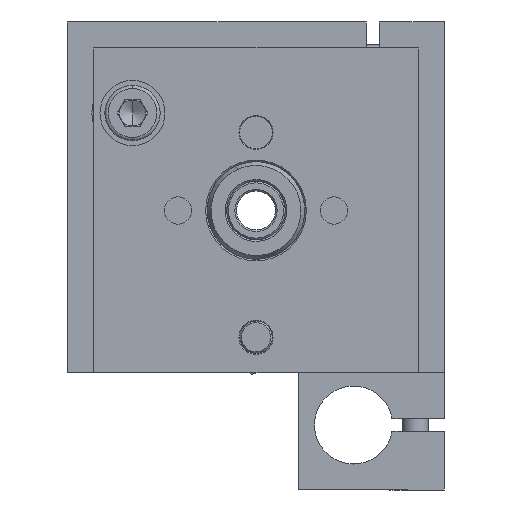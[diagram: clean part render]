
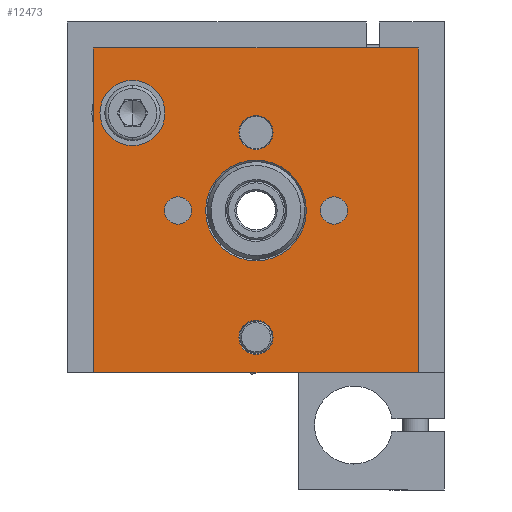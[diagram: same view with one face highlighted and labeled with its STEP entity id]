
A CAD part, front view. The second image highlights one B-rep face of the part: STEP entity #12473.
In plain terms, the highlighted planar face has unit normal (0, -1, 0) as drawn and (0, 1, 0) by its records, which use the part's own axes.
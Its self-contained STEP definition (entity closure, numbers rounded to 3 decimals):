
#8784 = CARTESIAN_POINT ( 'NONE',  ( 25., 12., -41.875 ) ) ;
#8832 = DIRECTION ( 'NONE',  ( 0., 0., 1. ) ) ;
#8833 = DIRECTION ( 'NONE',  ( 0., 1., 0. ) ) ;
#8834 = AXIS2_PLACEMENT_3D ( 'NONE', #8841, #8833, #8832 ) ;
#8835 = CIRCLE ( 'NONE', #8834, 2.625 ) ;
#8841 = CARTESIAN_POINT ( 'NONE',  ( 25., 12., -13. ) ) ;
#8856 = CARTESIAN_POINT ( 'NONE',  ( 25., 12., -15.625 ) ) ;
#8857 = CARTESIAN_POINT ( 'NONE',  ( 25., 12., -10.375 ) ) ;
#8879 = CARTESIAN_POINT ( 'NONE',  ( 25., 12., -17.25 ) ) ;
#8880 = CARTESIAN_POINT ( 'NONE',  ( 25., 12., -32.75 ) ) ;
#8885 = DIRECTION ( 'NONE',  ( 0., 0., 1. ) ) ;
#8886 = DIRECTION ( 'NONE',  ( 0., 1., 0. ) ) ;
#8887 = CARTESIAN_POINT ( 'NONE',  ( 25., 12., -25. ) ) ;
#8888 = AXIS2_PLACEMENT_3D ( 'NONE', #8887, #8886, #8885 ) ;
#8889 = CIRCLE ( 'NONE', #8888, 7.75 ) ;
#8896 = CARTESIAN_POINT ( 'NONE',  ( 13., 12., -27.1 ) ) ;
#8901 = DIRECTION ( 'NONE',  ( 0., 0., 1. ) ) ;
#8902 = DIRECTION ( 'NONE',  ( 0., 1., 0. ) ) ;
#8903 = CARTESIAN_POINT ( 'NONE',  ( 37., 12., -25. ) ) ;
#8904 = AXIS2_PLACEMENT_3D ( 'NONE', #8903, #8902, #8901 ) ;
#8905 = CIRCLE ( 'NONE', #8904, 2.1 ) ;
#8906 = CARTESIAN_POINT ( 'NONE',  ( 37., 12., -27.1 ) ) ;
#8907 = CARTESIAN_POINT ( 'NONE',  ( 37., 12., -22.9 ) ) ;
#8936 = DIRECTION ( 'NONE',  ( 0., 0., 1. ) ) ;
#8937 = DIRECTION ( 'NONE',  ( 0., 1., 0. ) ) ;
#8938 = CARTESIAN_POINT ( 'NONE',  ( 13., 12., -25. ) ) ;
#8939 = AXIS2_PLACEMENT_3D ( 'NONE', #8938, #8937, #8936 ) ;
#8940 = CIRCLE ( 'NONE', #8939, 2.1 ) ;
#9000 = CARTESIAN_POINT ( 'NONE',  ( 13., 12., -22.9 ) ) ;
#9031 = DIRECTION ( 'NONE',  ( 0., 0., 1. ) ) ;
#9032 = DIRECTION ( 'NONE',  ( 0., 1., 0. ) ) ;
#9033 = CARTESIAN_POINT ( 'NONE',  ( 13., 12., -25. ) ) ;
#9034 = AXIS2_PLACEMENT_3D ( 'NONE', #9033, #9032, #9031 ) ;
#9039 = CIRCLE ( 'NONE', #9034, 2.1 ) ;
#9049 = DIRECTION ( 'NONE',  ( 0., 0., 1. ) ) ;
#9050 = DIRECTION ( 'NONE',  ( 0., 1., 0. ) ) ;
#9051 = CARTESIAN_POINT ( 'NONE',  ( 37., 12., -25. ) ) ;
#9052 = AXIS2_PLACEMENT_3D ( 'NONE', #9051, #9050, #9049 ) ;
#9053 = CIRCLE ( 'NONE', #9052, 2.1 ) ;
#9113 = CARTESIAN_POINT ( 'NONE',  ( 0., 12., -50. ) ) ;
#9118 = CARTESIAN_POINT ( 'NONE',  ( 0., 12., 0. ) ) ;
#9119 = CARTESIAN_POINT ( 'NONE',  ( 50., 12., 0. ) ) ;
#9155 = DIRECTION ( 'NONE',  ( 0., 0., -1. ) ) ;
#9156 = VECTOR ( 'NONE', #9155, 1000. ) ;
#9157 = CARTESIAN_POINT ( 'NONE',  ( 50., 12., 0. ) ) ;
#9158 = LINE ( 'NONE', #9157, #9156 ) ;
#9159 = CARTESIAN_POINT ( 'NONE',  ( 50., 12., -50. ) ) ;
#9164 = DIRECTION ( 'NONE',  ( 0., 0., 1. ) ) ;
#9165 = VECTOR ( 'NONE', #9164, 1000. ) ;
#9166 = CARTESIAN_POINT ( 'NONE',  ( 0., 12., 0. ) ) ;
#9167 = LINE ( 'NONE', #9166, #9165 ) ;
#9249 = DIRECTION ( 'NONE',  ( 0., 0., 1. ) ) ;
#9250 = DIRECTION ( 'NONE',  ( 0., 1., 0. ) ) ;
#9251 = AXIS2_PLACEMENT_3D ( 'NONE', #9257, #9250, #9249 ) ;
#9252 = CIRCLE ( 'NONE', #9251, 2.625 ) ;
#9257 = CARTESIAN_POINT ( 'NONE',  ( 25., 12., -13. ) ) ;
#9271 = DIRECTION ( 'NONE',  ( 0., 0., 1. ) ) ;
#9272 = DIRECTION ( 'NONE',  ( 0., 1., 0. ) ) ;
#9273 = AXIS2_PLACEMENT_3D ( 'NONE', #9279, #9272, #9271 ) ;
#9274 = CIRCLE ( 'NONE', #9273, 2.625 ) ;
#9279 = CARTESIAN_POINT ( 'NONE',  ( 25., 12., -44.5 ) ) ;
#9305 = DIRECTION ( 'NONE',  ( 0., 0., 1. ) ) ;
#9306 = DIRECTION ( 'NONE',  ( 0., 1., 0. ) ) ;
#9307 = AXIS2_PLACEMENT_3D ( 'NONE', #9312, #9306, #9305 ) ;
#9312 = CARTESIAN_POINT ( 'NONE',  ( 25., 12., -25. ) ) ;
#9314 = CIRCLE ( 'NONE', #9307, 7.75 ) ;
#9484 = FACE_OUTER_BOUND ( 'NONE', #12321, .T. ) ;
#9485 = FACE_BOUND ( 'NONE', #12338, .T. ) ;
#9486 = FACE_BOUND ( 'NONE', #12298, .T. ) ;
#9487 = FACE_BOUND ( 'NONE', #12303, .T. ) ;
#9488 = FACE_BOUND ( 'NONE', #12300, .T. ) ;
#9489 = FACE_BOUND ( 'NONE', #12550, .T. ) ;
#9490 = FACE_BOUND ( 'NONE', #12480, .T. ) ;
#9491 = DIRECTION ( 'NONE',  ( 1., 0., 0. ) ) ;
#9492 = VECTOR ( 'NONE', #9491, 1000. ) ;
#9493 = CARTESIAN_POINT ( 'NONE',  ( 0., 12., 0. ) ) ;
#9494 = LINE ( 'NONE', #9493, #9492 ) ;
#9495 = PLANE ( 'NONE',  #9548 ) ;
#9523 = CIRCLE ( 'NONE', #9582, 5. ) ;
#9545 = DIRECTION ( 'NONE',  ( 0., 0., -1. ) ) ;
#9546 = DIRECTION ( 'NONE',  ( 0., -1., 0. ) ) ;
#9547 = CARTESIAN_POINT ( 'NONE',  ( 0., 12., -50. ) ) ;
#9548 = AXIS2_PLACEMENT_3D ( 'NONE', #9547, #9546, #9545 ) ;
#9571 = DIRECTION ( 'NONE',  ( -1., 0., 0. ) ) ;
#9572 = VECTOR ( 'NONE', #9571, 1000. ) ;
#9573 = CARTESIAN_POINT ( 'NONE',  ( 0., 12., -50. ) ) ;
#9574 = LINE ( 'NONE', #9573, #9572 ) ;
#9579 = DIRECTION ( 'NONE',  ( 0., 0., 1. ) ) ;
#9580 = DIRECTION ( 'NONE',  ( 0., 1., 0. ) ) ;
#9581 = CARTESIAN_POINT ( 'NONE',  ( 44., 12., -10. ) ) ;
#9582 = AXIS2_PLACEMENT_3D ( 'NONE', #9581, #9580, #9579 ) ;
#9813 = CARTESIAN_POINT ( 'NONE',  ( 44., 12., -5. ) ) ;
#9840 = DIRECTION ( 'NONE',  ( 0., 0., 1. ) ) ;
#9841 = DIRECTION ( 'NONE',  ( 0., 1., 0. ) ) ;
#9842 = CARTESIAN_POINT ( 'NONE',  ( 44., 12., -10. ) ) ;
#9843 = AXIS2_PLACEMENT_3D ( 'NONE', #9842, #9841, #9840 ) ;
#9844 = CIRCLE ( 'NONE', #9843, 5. ) ;
#9849 = CARTESIAN_POINT ( 'NONE',  ( 44., 12., -15. ) ) ;
#9924 = CARTESIAN_POINT ( 'NONE',  ( 25., 12., -47.125 ) ) ;
#9976 = DIRECTION ( 'NONE',  ( 0., 0., 1. ) ) ;
#9977 = DIRECTION ( 'NONE',  ( 0., 1., 0. ) ) ;
#9978 = CARTESIAN_POINT ( 'NONE',  ( 25., 12., -44.5 ) ) ;
#9979 = AXIS2_PLACEMENT_3D ( 'NONE', #9978, #9977, #9976 ) ;
#9980 = CIRCLE ( 'NONE', #9979, 2.625 ) ;
#12074 = VERTEX_POINT ( 'NONE', #8784 ) ;
#12098 = VERTEX_POINT ( 'NONE', #8857 ) ;
#12100 = VERTEX_POINT ( 'NONE', #8856 ) ;
#12112 = EDGE_CURVE ( 'NONE', #12100, #12098, #8835, .T. ) ;
#12118 = EDGE_CURVE ( 'NONE', #12120, #12122, #8889, .T. ) ;
#12120 = VERTEX_POINT ( 'NONE', #8880 ) ;
#12122 = VERTEX_POINT ( 'NONE', #8879 ) ;
#12142 = VERTEX_POINT ( 'NONE', #8907 ) ;
#12143 = VERTEX_POINT ( 'NONE', #8906 ) ;
#12146 = EDGE_CURVE ( 'NONE', #12143, #12142, #8905, .T. ) ;
#12149 = VERTEX_POINT ( 'NONE', #8896 ) ;
#12157 = EDGE_CURVE ( 'NONE', #12149, #12166, #8940, .T. ) ;
#12166 = VERTEX_POINT ( 'NONE', #9000 ) ;
#12175 = EDGE_CURVE ( 'NONE', #12166, #12149, #9039, .T. ) ;
#12193 = EDGE_CURVE ( 'NONE', #12142, #12143, #9053, .T. ) ;
#12227 = VERTEX_POINT ( 'NONE', #9119 ) ;
#12231 = VERTEX_POINT ( 'NONE', #9118 ) ;
#12234 = VERTEX_POINT ( 'NONE', #9113 ) ;
#12238 = EDGE_CURVE ( 'NONE', #12234, #12231, #9167, .T. ) ;
#12243 = VERTEX_POINT ( 'NONE', #9159 ) ;
#12246 = EDGE_CURVE ( 'NONE', #12227, #12243, #9158, .T. ) ;
#12294 = ORIENTED_EDGE ( 'NONE', *, *, #12295, .F. ) ;
#12295 = EDGE_CURVE ( 'NONE', #12098, #12100, #9252, .T. ) ;
#12298 = EDGE_LOOP ( 'NONE', ( #12294, #12341 ) ) ;
#12300 = EDGE_LOOP ( 'NONE', ( #12308, #12309 ) ) ;
#12301 = ORIENTED_EDGE ( 'NONE', *, *, #12146, .F. ) ;
#12302 = ORIENTED_EDGE ( 'NONE', *, *, #12668, .F. ) ;
#12303 = EDGE_LOOP ( 'NONE', ( #12312, #12302 ) ) ;
#12304 = ORIENTED_EDGE ( 'NONE', *, *, #12193, .F. ) ;
#12308 = ORIENTED_EDGE ( 'NONE', *, *, #12175, .F. ) ;
#12309 = ORIENTED_EDGE ( 'NONE', *, *, #12157, .F. ) ;
#12311 = EDGE_CURVE ( 'NONE', #12074, #12665, #9274, .T. ) ;
#12312 = ORIENTED_EDGE ( 'NONE', *, *, #12311, .F. ) ;
#12315 = ORIENTED_EDGE ( 'NONE', *, *, #12246, .T. ) ;
#12316 = ORIENTED_EDGE ( 'NONE', *, *, #12472, .T. ) ;
#12317 = ORIENTED_EDGE ( 'NONE', *, *, #12482, .T. ) ;
#12318 = ORIENTED_EDGE ( 'NONE', *, *, #12118, .F. ) ;
#12321 = EDGE_LOOP ( 'NONE', ( #12324, #12316, #12315, #12317 ) ) ;
#12324 = ORIENTED_EDGE ( 'NONE', *, *, #12238, .T. ) ;
#12330 = EDGE_CURVE ( 'NONE', #12122, #12120, #9314, .T. ) ;
#12338 = EDGE_LOOP ( 'NONE', ( #12339, #12318 ) ) ;
#12339 = ORIENTED_EDGE ( 'NONE', *, *, #12330, .F. ) ;
#12341 = ORIENTED_EDGE ( 'NONE', *, *, #12112, .F. ) ;
#12468 = ORIENTED_EDGE ( 'NONE', *, *, #12607, .F. ) ;
#12472 = EDGE_CURVE ( 'NONE', #12231, #12227, #9494, .T. ) ;
#12473 = ADVANCED_FACE ( 'NONE', ( #9490, #9489, #9488, #9487, #9486, #9485, #9484 ), #9495, .F. ) ;
#12478 = EDGE_CURVE ( 'NONE', #12588, #12602, #9523, .T. ) ;
#12480 = EDGE_LOOP ( 'NONE', ( #12484, #12468 ) ) ;
#12482 = EDGE_CURVE ( 'NONE', #12243, #12234, #9574, .T. ) ;
#12484 = ORIENTED_EDGE ( 'NONE', *, *, #12478, .F. ) ;
#12550 = EDGE_LOOP ( 'NONE', ( #12304, #12301 ) ) ;
#12588 = VERTEX_POINT ( 'NONE', #9813 ) ;
#12602 = VERTEX_POINT ( 'NONE', #9849 ) ;
#12607 = EDGE_CURVE ( 'NONE', #12602, #12588, #9844, .T. ) ;
#12665 = VERTEX_POINT ( 'NONE', #9924 ) ;
#12668 = EDGE_CURVE ( 'NONE', #12665, #12074, #9980, .T. ) ;
